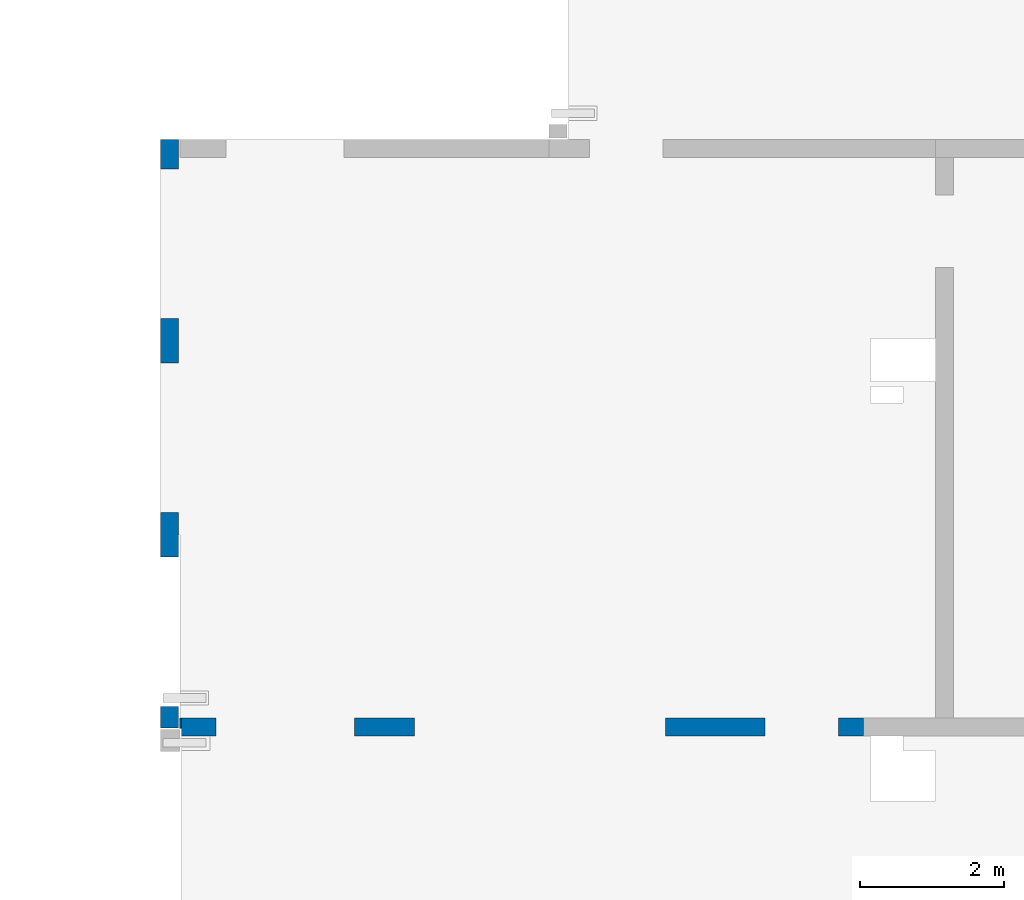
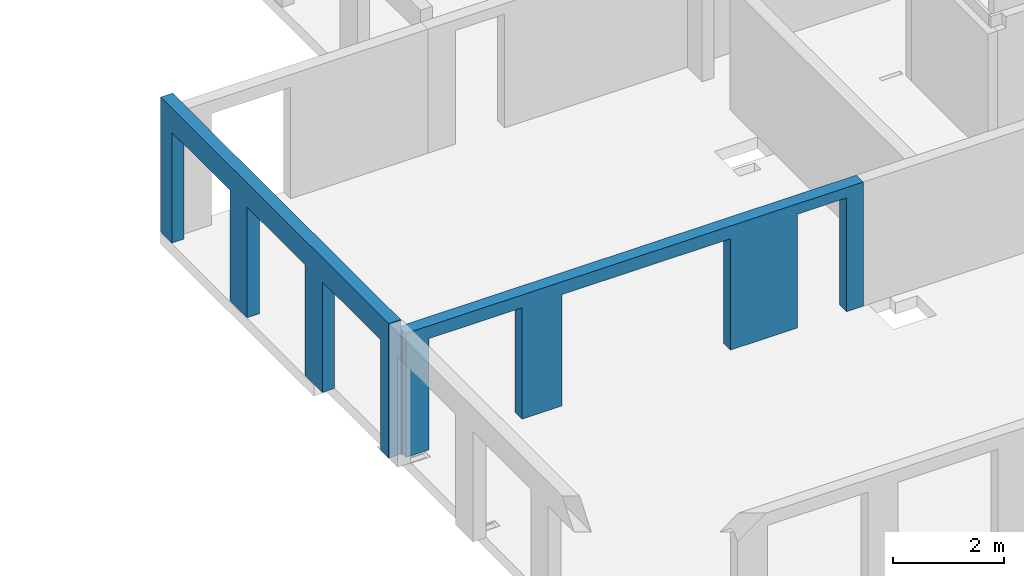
# One storey, part 7 of 13: 3 walls, 6 openings.
"""IFC2X3 building model written with IfcOpenShell, lengths in millimetres."""

import ifcopenshell
import ifcopenshell.guid

model = None  # the IFC model being written
_history = None  # IfcOwnerHistory: only IFC2X3 demands one
_inside = {}  # id of a spatial element -> (the spatial element, [elements in it])
_under = {}  # id of a project, library or spatial element -> (it, [spatial elements below it])
_declared = {}  # id of a project -> (the project, [libraries it declares])
_typed = {}  # id of a type object -> (the type object, [elements of that type])
_made_of = {}  # id of a material, layer set ... -> (it, [elements and type objects made of it])


def new_model(schema):
    """Start an empty IFC model of exactly this schema.

    Asked for "IFC4X3", IfcOpenShell would pick the latest addendum, in which some entities
    have other attributes; the version numbers below select the first issue.
    IFC2X3 requires an IfcOwnerHistory on every rooted entity: one is made here for all.
    """
    global model, _history
    if schema == "IFC4X3":
        model = ifcopenshell.file(schema_version=(4, 3, 0, 0))
    else:
        model = ifcopenshell.file(schema=schema)
    _inside.clear()
    _under.clear()
    _declared.clear()
    _typed.clear()
    _made_of.clear()
    _history = None
    if model.schema == "IFC2X3":
        org = make("IfcOrganization", Name="unknown")
        user = make(
            "IfcPersonAndOrganization",
            ThePerson=make("IfcPerson", FamilyName="unknown"),
            TheOrganization=org,
        )
        app = make(
            "IfcApplication",
            ApplicationDeveloper=org,
            Version="unknown",
            ApplicationFullName="unknown",
            ApplicationIdentifier="unknown",
        )
        _history = make(
            "IfcOwnerHistory",
            OwningUser=user,
            OwningApplication=app,
            ChangeAction="ADDED",
            CreationDate=0,
        )
    return model


def make(cls, **values):
    """One entity of the class cls with the attributes given. An attribute that is None is left unset."""
    return model.create_entity(
        cls, **{name: value for name, value in values.items() if value is not None}
    )


def entity(cls, *values):
    """Any entity or typed value of the class cls, its attributes in the order of the schema. None: left unset."""
    e = model.create_entity(cls)
    for i, value in enumerate(values):
        if value is not None:
            e[i] = value
    return e


def rooted(cls, **values):
    """An entity with a GlobalId (a new one), such as an element, a storey or a relation."""
    return make(cls, GlobalId=ifcopenshell.guid.new(), OwnerHistory=_history, **values)


def si_unit(unit_type, name, prefix=None):
    """IfcSIUnit, for example si_unit("LENGTHUNIT", "METRE", prefix="MILLI")."""
    return make("IfcSIUnit", UnitType=unit_type, Prefix=prefix, Name=name)


def converted_unit(unit_type, name, factor, base, dimensions=None, offset=None):
    """IfcConversionBasedUnit, such as the inch: factor (a typed value) times the base unit."""
    return make(
        "IfcConversionBasedUnit"
        if offset is None
        else "IfcConversionBasedUnitWithOffset",
        ConversionOffset=offset,
        Dimensions=None
        if dimensions is None
        else entity("IfcDimensionalExponents", *dimensions),
        UnitType=unit_type,
        Name=name,
        ConversionFactor=make(
            "IfcMeasureWithUnit", ValueComponent=factor, UnitComponent=base
        ),
    )


def derived_unit(unit_type, elements):
    """IfcDerivedUnit: a product of units, each with its exponent."""
    return make(
        "IfcDerivedUnit",
        Elements=[
            make("IfcDerivedUnitElement", Unit=unit, Exponent=power)
            for unit, power in elements
        ],
        UnitType=unit_type,
    )


def assignment(units):
    """IfcUnitAssignment: the units of a project."""
    return None if units is None else make("IfcUnitAssignment", Units=units)


def point(xyz):
    """IfcCartesianPoint."""
    return None if xyz is None else make("IfcCartesianPoint", Coordinates=xyz)


def direction(xyz):
    """IfcDirection."""
    return None if xyz is None else make("IfcDirection", DirectionRatios=xyz)


def frame(location, z_axis=None, x_axis=None):
    """IfcAxis2Placement3D, a coordinate frame: its origin and axes. An axis left out is left unset."""
    return make(
        "IfcAxis2Placement3D",
        Location=point(location),
        Axis=direction(z_axis),
        RefDirection=direction(x_axis),
    )


def frame_2d(location, x_axis=None):
    """IfcAxis2Placement2D, a coordinate frame in the plane: its origin and x axis."""
    return make(
        "IfcAxis2Placement2D", Location=point(location), RefDirection=direction(x_axis)
    )


def origin():
    """The frame at (0, 0, 0) with its axes left unset."""
    return frame((0.0, 0.0, 0.0))


def origin_2d_with_axis():
    """The frame at (0, 0) in the plane with the x axis (1, 0) written out."""
    return frame_2d((0.0, 0.0), x_axis=(1.0, 0.0))


def place(relative_to, where):
    """IfcLocalPlacement: puts the frame where relative to a parent placement (None: the world)."""
    return make(
        "IfcLocalPlacement", PlacementRelTo=relative_to, RelativePlacement=where
    )


def context(
    kind, dimensions, precision=None, world=None, true_north=None, identifier=None
):
    """IfcGeometricRepresentationContext, for example the 3D "Model" context."""
    return make(
        "IfcGeometricRepresentationContext",
        ContextIdentifier=identifier,
        ContextType=kind,
        CoordinateSpaceDimension=dimensions,
        Precision=precision,
        WorldCoordinateSystem=world,
        TrueNorth=true_north,
    )


def subcontext(parent, identifier, kind, view, scale=None):
    """IfcGeometricRepresentationSubContext, for example "Body" below "Model"."""
    return make(
        "IfcGeometricRepresentationSubContext",
        ContextIdentifier=identifier,
        ContextType=kind,
        ParentContext=parent,
        TargetScale=scale,
        TargetView=view,
    )


def project(units=None, contexts=None):
    """IfcProject with its units and contexts."""
    return rooted(
        "IfcProject",
        Name="project",
        RepresentationContexts=contexts,
        UnitsInContext=assignment(units),
    )


def spatial(cls, under=None, at=None, **own):
    """A site, building, storey or space (cls), placed at a placement, below another one or the project."""
    s = rooted(cls, ObjectPlacement=at, **own)
    if under is not None:
        _under.setdefault(under.id(), (under, []))[1].append(s)
    return s


def profile(cls, at=None, kind="AREA", **sizes):
    """A parametric profile (cls). Its sizes go by their IFC names, for example OverallWidth=200.0."""
    return make(cls, ProfileType=kind, Position=at, **sizes)


def rectangle(**sizes):
    """IfcRectangleProfileDef."""
    return profile("IfcRectangleProfileDef", **sizes)


def extrude(swept, where, along, depth):
    """IfcExtrudedAreaSolid: the profile swept, set in the frame where, extruded along a direction by depth."""
    return make(
        "IfcExtrudedAreaSolid",
        SweptArea=swept,
        Position=where,
        ExtrudedDirection=direction(along),
        Depth=depth,
    )


def shape(context_of_items, identifier, shape_type, items):
    """IfcShapeRepresentation: the items that make up one representation, for example the "Body"."""
    return make(
        "IfcShapeRepresentation",
        ContextOfItems=context_of_items,
        RepresentationIdentifier=identifier,
        RepresentationType=shape_type,
        Items=items,
    )


def material(Name=None, Category=None):
    """IfcMaterial."""
    return make("IfcMaterial", Name=Name, Category=Category)


def layer(
    of_material, thickness, ventilated=None, Name=None, Category=None, Priority=None
):
    """IfcMaterialLayer: one layer of a wall or slab, of a material (None: an air gap)."""
    return make(
        "IfcMaterialLayer",
        Material=of_material,
        LayerThickness=thickness,
        IsVentilated=ventilated,
        Name=Name,
        Category=Category,
        Priority=Priority,
    )


def layer_set(layers, Name=None):
    """IfcMaterialLayerSet."""
    return make("IfcMaterialLayerSet", MaterialLayers=layers, LayerSetName=Name)


def layer_usage(for_layer_set, set_direction, sense, offset, extent=None):
    """IfcMaterialLayerSetUsage: how a layer set lies in its element."""
    return make(
        "IfcMaterialLayerSetUsage",
        ForLayerSet=for_layer_set,
        LayerSetDirection=set_direction,
        DirectionSense=sense,
        OffsetFromReferenceLine=offset,
        ReferenceExtent=extent,
    )


def made_of(thing, what):
    """Note that an element or type object is made of a material, layer set ...; save() writes the relation."""
    if what is not None:
        _made_of.setdefault(what.id(), (what, []))[1].append(thing)
    return thing


def type_object(cls, material=None, **own):
    """A type object (cls), such as IfcWallType, which elements share."""
    return made_of(rooted(cls, **own), material)


def element(
    cls,
    number,
    at=None,
    inside=None,
    cuts=None,
    type_object=None,
    material=None,
    context=None,
    identifier="Body",
    shape_type=None,
    held_by="IfcProductDefinitionShape",
    body=None,
    shapes=None,
    **own,
):
    """One element of the class cls, such as IfcWall. Its Tag is "e" and its number.

    at: its placement. inside: the storey or other place that contains it. cuts: it is an
    opening in that element (IfcRelVoidsElement). A single representation is given by context,
    identifier, shape_type and body (its items); several are given by shapes. held_by: the class
    of the entity that holds the representations. save() writes the other relations.
    """
    e = rooted(cls, Tag="e%d" % number, ObjectPlacement=at, **own)
    if body is not None:
        shapes = [shape(context, identifier, shape_type, body)]
    if shapes is not None:
        e.Representation = make(held_by, Representations=shapes)
    if inside is not None:
        _inside.setdefault(inside.id(), (inside, []))[1].append(e)
    if cuts is not None:
        rooted(
            "IfcRelVoidsElement", RelatingBuildingElement=cuts, RelatedOpeningElement=e
        )
    if type_object is not None:
        _typed.setdefault(type_object.id(), (type_object, []))[1].append(e)
    return made_of(e, material)


def aggregate(whole, parts):
    """IfcRelAggregates: a whole, such as a stair, and the parts it consists of."""
    return rooted("IfcRelAggregates", RelatingObject=whole, RelatedObjects=parts)


def save(model, path):
    """Write the relations noted so far, then the file.

    IfcRelAggregates (storeys below a building ...), IfcRelContainedInSpatialStructure (elements
    in a storey), IfcRelDefinesByType, IfcRelAssociatesMaterial and IfcRelDeclares: one each for
    every whole, place, type object, material and project.
    """
    for whole, parts in _under.values():
        aggregate(whole, parts)
    for where, things in _inside.values():
        rooted(
            "IfcRelContainedInSpatialStructure",
            RelatedElements=things,
            RelatingStructure=where,
        )
    for kind, things in _typed.values():
        rooted("IfcRelDefinesByType", RelatedObjects=things, RelatingType=kind)
    for what, things in _made_of.values():
        rooted("IfcRelAssociatesMaterial", RelatedObjects=things, RelatingMaterial=what)
    for by, libraries in _declared.values():
        rooted("IfcRelDeclares", RelatingContext=by, RelatedDefinitions=libraries)
    model.write(path)


model = new_model("IFC2X3")

# Units and contexts
model_context = context("Model", 3, precision=0.01, world=origin(), true_north=direction((6.12303176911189e-17, 1.0)))
body_context = subcontext(model_context, "Body", "Model", "MODEL_VIEW")
ifc_project = project(units=[si_unit("LENGTHUNIT", "METRE", prefix="MILLI"), si_unit("AREAUNIT", "SQUARE_METRE"), si_unit("VOLUMEUNIT", "CUBIC_METRE"), converted_unit("PLANEANGLEUNIT", "DEGREE", entity("IfcRatioMeasure", 0.0174532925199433), si_unit("PLANEANGLEUNIT", "RADIAN"), dimensions=[0, 0, 0, 0, 0, 0, 0]), si_unit("MASSUNIT", "GRAM", prefix="KILO"), derived_unit("MASSDENSITYUNIT", [(si_unit("MASSUNIT", "GRAM", prefix="KILO"), 1), (si_unit("LENGTHUNIT", "METRE"), -3)]), si_unit("TIMEUNIT", "SECOND"), si_unit("FREQUENCYUNIT", "HERTZ"), si_unit("THERMODYNAMICTEMPERATUREUNIT", "DEGREE_CELSIUS"), derived_unit("THERMALTRANSMITTANCEUNIT", [(si_unit("MASSUNIT", "GRAM", prefix="KILO"), 1), (si_unit("THERMODYNAMICTEMPERATUREUNIT", "KELVIN"), -1), (si_unit("TIMEUNIT", "SECOND"), -3)]), derived_unit("VOLUMETRICFLOWRATEUNIT", [(si_unit("LENGTHUNIT", "METRE"), 3), (si_unit("TIMEUNIT", "SECOND"), -1)]), si_unit("ELECTRICCURRENTUNIT", "AMPERE"), si_unit("ELECTRICVOLTAGEUNIT", "VOLT"), si_unit("POWERUNIT", "WATT"), si_unit("FORCEUNIT", "NEWTON", prefix="KILO"), si_unit("ILLUMINANCEUNIT", "LUX"), si_unit("LUMINOUSFLUXUNIT", "LUMEN"), si_unit("LUMINOUSINTENSITYUNIT", "CANDELA"), derived_unit("USERDEFINED", [(si_unit("MASSUNIT", "GRAM", prefix="KILO"), -1), (si_unit("LENGTHUNIT", "METRE"), -2), (si_unit("TIMEUNIT", "SECOND"), 3), (si_unit("LUMINOUSFLUXUNIT", "LUMEN"), 1)]), derived_unit("LINEARVELOCITYUNIT", [(si_unit("LENGTHUNIT", "METRE"), 1), (si_unit("TIMEUNIT", "SECOND"), -1)]), si_unit("PRESSUREUNIT", "PASCAL"), derived_unit("USERDEFINED", [(si_unit("LENGTHUNIT", "METRE"), -2), (si_unit("MASSUNIT", "GRAM", prefix="KILO"), 1), (si_unit("TIMEUNIT", "SECOND"), -2)])], contexts=[model_context])

# Site, building, storey
site_placement = place(None, origin())
site = spatial("IfcSite", under=ifc_project, at=site_placement, Name="Default", CompositionType="ELEMENT")
building_placement = place(site_placement, origin())
building = spatial("IfcBuilding", under=site, at=building_placement, Name="niet gebruiken", CompositionType="ELEMENT")
storey_placement = place(building_placement, frame((0.0, 0.0, 60120.0)))
storey = spatial("IfcBuildingStorey", under=building, at=storey_placement, Name="20 twintigste verdieping", CompositionType="ELEMENT", Elevation=60120.0)

# Wall, openings
ifc_material_1 = material(Name="NLRS_f2_beton ihwg")
ifc_layer_1 = layer(ifc_material_1, 250.0)
ifc_layer_set_1 = layer_set([ifc_layer_1], Name="Basic Wall:NLRS_22.21_WA_beton ihwg d=250_gen")
ifc_layer_usage_1 = layer_usage(ifc_layer_set_1, "AXIS2", "NEGATIVE", 125.0)
wall_type_1 = type_object("IfcWallType", Name="Basic Wall:NLRS_22.21_WA_beton ihwg d=250_gen", PredefinedType="STANDARD", material=ifc_layer_set_1)
wall_1_placement = place(storey_placement, frame((75790.0, 36981.0, -90.0)))
wall_1 = element("IfcWallStandardCase", 1, at=wall_1_placement, inside=storey, type_object=wall_type_1, material=ifc_layer_usage_1, Name="Basic Wall:NLRS_22.21_WA_beton ihwg d=250_gen", ObjectType="Basic Wall:NLRS_22.21_WA_beton ihwg d=250_gen", context=body_context, shape_type="SweptSolid", body=[
    extrude(rectangle(XDim=9485.00000000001, YDim=250.000000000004, at=frame_2d((4742.5, 0.0), x_axis=(-1.0, 0.0))), origin(), (0.0, 0.0, 1.0), 2719.99999999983),
])
opening_1_placement = place(wall_1_placement, origin())
element("IfcOpeningElement", 2, at=opening_1_placement, cuts=wall_1, Name="Basic Wall:NLRS_22.21_WA_beton ihwg d=250_gen", ObjectType="Opening", context=body_context, shape_type="SweptSolid", body=[
    extrude(rectangle(XDim=2492.00000000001, YDim=1021.99999999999, at=frame_2d((8.75388650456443e-12, 8.66862137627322e-12), x_axis=(1.0, 0.0))), frame((8625.0, -1649.0, 1246.0), z_axis=(0.0, 1.0, 0.0), x_axis=(0.0, 0.0, 1.0)), (0.0, 0.0, 1.0), 3048.0),
])
opening_2_placement = place(wall_1_placement, origin())
element("IfcOpeningElement", 3, at=opening_2_placement, cuts=wall_1, Name="Basic Wall:NLRS_22.21_WA_beton ihwg d=250_gen", ObjectType="Opening", context=body_context, shape_type="SweptSolid", body=[
    extrude(rectangle(XDim=2440.0, YDim=1930.0, at=frame_2d((0.0, 4.37694325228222e-12), x_axis=(1.0, 0.0))), frame((1445.0, -1649.0, 1220.0), z_axis=(0.0, 1.0, 0.0), x_axis=(0.0, 0.0, 1.0)), (0.0, 0.0, 1.0), 3048.0),
])
opening_3_placement = place(wall_1_placement, origin())
element("IfcOpeningElement", 4, at=opening_3_placement, cuts=wall_1, Name="Basic Wall:NLRS_22.21_WA_beton ihwg d=250_gen", ObjectType="Opening", context=body_context, shape_type="SweptSolid", body=[
    extrude(rectangle(XDim=2440.0, YDim=3490.0, at=origin_2d_with_axis()), frame((4985.0, -1649.0, 1220.0), z_axis=(0.0, 1.0, 0.0), x_axis=(0.0, 0.0, 1.0)), (0.0, 0.0, 1.0), 3048.0),
])

ifc_material_2 = material(Name="NLRS_f2_beton prefab")
ifc_layer_2 = layer(ifc_material_2, 250.0)
ifc_layer_set_2 = layer_set([ifc_layer_2], Name="Basic Wall:NLRS_21.21_WA_beton prefab d=250_gen")
ifc_layer_usage_2 = layer_usage(ifc_layer_set_2, "AXIS2", "NEGATIVE", 125.0)
wall_type_2 = type_object("IfcWallType", Name="Basic Wall:NLRS_21.21_WA_beton prefab d=250_gen", PredefinedType="STANDARD", material=ifc_layer_set_2)
wall_2_placement = place(storey_placement, frame((75625.0, 45156.0, -70.0), z_axis=(0.0, 0.0, 1.0), x_axis=(0.0, -1.0, 0.0)))
wall_2 = element("IfcWallStandardCase", 5, at=wall_2_placement, inside=storey, type_object=wall_type_2, material=ifc_layer_usage_2, Name="Basic Wall:NLRS_21.21_WA_beton prefab d=250_gen", ObjectType="Basic Wall:NLRS_21.21_WA_beton prefab d=250_gen", context=body_context, shape_type="SweptSolid", body=[
    extrude(rectangle(XDim=8189.99999999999, YDim=249.999999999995, at=frame_2d((4095.0, 0.0), x_axis=(-1.0, 0.0))), origin(), (0.0, 0.0, 1.0), 2950.00000000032),
])
opening_4_placement = place(wall_2_placement, origin())
element("IfcOpeningElement", 6, at=opening_4_placement, cuts=wall_2, Name="Basic Wall:NLRS_21.21_WA_beton prefab d=250_gen", ObjectType="Opening", context=body_context, shape_type="SweptSolid", body=[
    extrude(rectangle(XDim=2420.0, YDim=2080.0, at=frame_2d((0.0, 0.0), x_axis=(0.0, 1.0))), frame((1450.0, -1399.0, 1210.0), z_axis=(0.0, 1.0, 0.0), x_axis=(-1.0, 0.0, 0.0)), (0.0, 0.0, 1.0), 3048.0),
])
opening_5_placement = place(wall_2_placement, origin())
element("IfcOpeningElement", 7, at=opening_5_placement, cuts=wall_2, Name="Basic Wall:NLRS_21.21_WA_beton prefab d=250_gen", ObjectType="Opening", context=body_context, shape_type="SweptSolid", body=[
    extrude(rectangle(XDim=2420.0, YDim=2080.0, at=frame_2d((0.0, 0.0), x_axis=(0.0, 1.0))), frame((4150.0, -1399.0, 1210.0), z_axis=(0.0, 1.0, 0.0), x_axis=(-1.0, 0.0, 0.0)), (0.0, 0.0, 1.0), 3048.0),
])
opening_6_placement = place(wall_2_placement, origin())
element("IfcOpeningElement", 8, at=opening_6_placement, cuts=wall_2, Name="Basic Wall:NLRS_21.21_WA_beton prefab d=250_gen", ObjectType="Opening", context=body_context, shape_type="SweptSolid", body=[
    extrude(rectangle(XDim=2420.0, YDim=2080.0, at=frame_2d((0.0, 0.0), x_axis=(0.0, 1.0))), frame((6850.0, -1399.0, 1210.0), z_axis=(0.0, 1.0, 0.0), x_axis=(-1.0, 0.0, 0.0)), (0.0, 0.0, 1.0), 3048.0),
])

# Wall
ifc_layer_3 = layer(ifc_material_1, 140.0)
ifc_layer_set_3 = layer_set([ifc_layer_3], Name="Basic Wall:NLRS_22.21_WA_beton ihwg d=140_gen")
ifc_layer_usage_3 = layer_usage(ifc_layer_set_3, "AXIS2", "NEGATIVE", 70.0)
wall_type_3 = type_object("IfcWallType", Name="Basic Wall:NLRS_22.21_WA_beton ihwg d=140_gen", PredefinedType="STANDARD", material=ifc_layer_set_3)
wall_3_placement = place(storey_placement, frame((75770.0, 37036.0, -90.0)))
element("IfcWallStandardCase", 9, at=wall_3_placement, inside=storey, type_object=wall_type_3, material=ifc_layer_usage_3, Name="Basic Wall:NLRS_22.21_WA_beton ihwg d=140_gen", ObjectType="Basic Wall:NLRS_22.21_WA_beton ihwg d=140_gen", context=body_context, shape_type="SweptSolid", body=[
    extrude(rectangle(XDim=19.9999999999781, YDim=140.000000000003, at=frame_2d((9.99999999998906, 0.0), x_axis=(-1.0, 0.0))), origin(), (0.0, 0.0, 1.0), 2719.99999999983),
])

save(model, "model.ifc")
